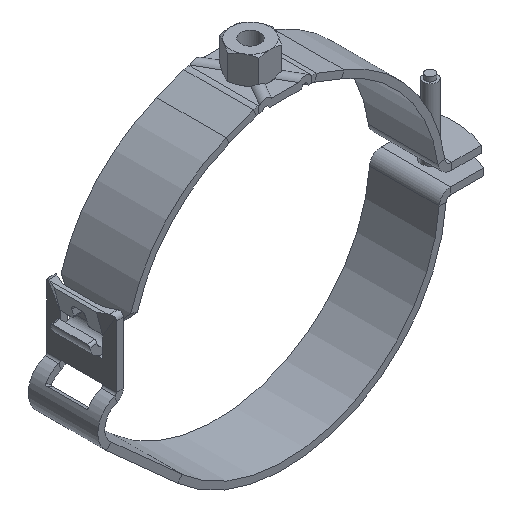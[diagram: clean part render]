
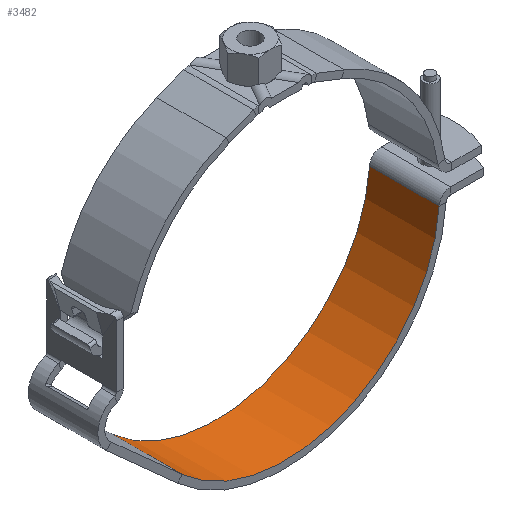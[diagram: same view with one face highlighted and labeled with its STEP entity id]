
A CAD part, isometric view. The second image highlights one B-rep face of the part: STEP entity #3482.
In plain terms, the highlighted cylindrical face has radius 66.5 mm (diameter 133 mm), a partial arc.
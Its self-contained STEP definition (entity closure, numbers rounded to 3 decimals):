
#164=CIRCLE('',#3794,66.5);
#165=CIRCLE('',#3795,66.5);
#262=CYLINDRICAL_SURFACE('',#3793,66.5);
#372=FACE_OUTER_BOUND('',#586,.T.);
#586=EDGE_LOOP('',(#2464,#2465,#2466,#2467));
#852=LINE('',#5449,#1171);
#861=LINE('',#5556,#1180);
#1171=VECTOR('',#4303,30.);
#1180=VECTOR('',#4324,30.);
#1497=VERTEX_POINT('',#5447);
#1498=VERTEX_POINT('',#5448);
#1503=VERTEX_POINT('',#5554);
#1504=VERTEX_POINT('',#5555);
#1854=EDGE_CURVE('',#1497,#1498,#852,.T.);
#1868=EDGE_CURVE('',#1503,#1504,#861,.T.);
#1869=EDGE_CURVE('',#1498,#1504,#164,.T.);
#1870=EDGE_CURVE('',#1497,#1503,#165,.T.);
#2464=ORIENTED_EDGE('',*,*,#1868,.T.);
#2465=ORIENTED_EDGE('',*,*,#1869,.F.);
#2466=ORIENTED_EDGE('',*,*,#1854,.F.);
#2467=ORIENTED_EDGE('',*,*,#1870,.T.);
#3482=ADVANCED_FACE('',(#372),#262,.F.);
#3793=AXIS2_PLACEMENT_3D('',#5553,#4322,#4323);
#3794=AXIS2_PLACEMENT_3D('',#5557,#4325,#4326);
#3795=AXIS2_PLACEMENT_3D('',#5558,#4327,#4328);
#4303=DIRECTION('',(-1.,0.,0.));
#4322=DIRECTION('center_axis',(1.,0.,0.));
#4323=DIRECTION('ref_axis',(0.,1.,0.));
#4324=DIRECTION('',(-1.,0.,0.));
#4325=DIRECTION('center_axis',(1.,0.,0.));
#4326=DIRECTION('ref_axis',(0.,-0.667,-0.745));
#4327=DIRECTION('center_axis',(1.,0.,0.));
#4328=DIRECTION('ref_axis',(0.,-0.667,-0.745));
#5447=CARTESIAN_POINT('',(30.,-44.382,-49.522));
#5448=CARTESIAN_POINT('',(0.,-44.382,-49.522));
#5449=CARTESIAN_POINT('',(30.,-44.382,-49.522));
#5553=CARTESIAN_POINT('Origin',(15.511,0.,0.));
#5554=CARTESIAN_POINT('',(30.,66.337,-4.65));
#5555=CARTESIAN_POINT('',(0.,66.337,-4.65));
#5556=CARTESIAN_POINT('',(30.,66.337,-4.65));
#5557=CARTESIAN_POINT('Origin',(0.,0.,0.));
#5558=CARTESIAN_POINT('Origin',(30.,0.,0.));
